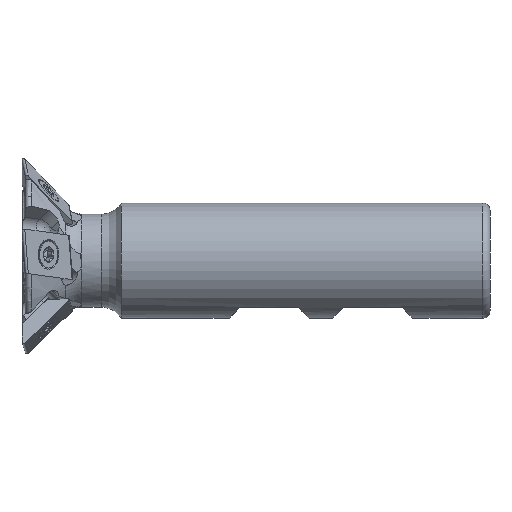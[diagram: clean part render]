
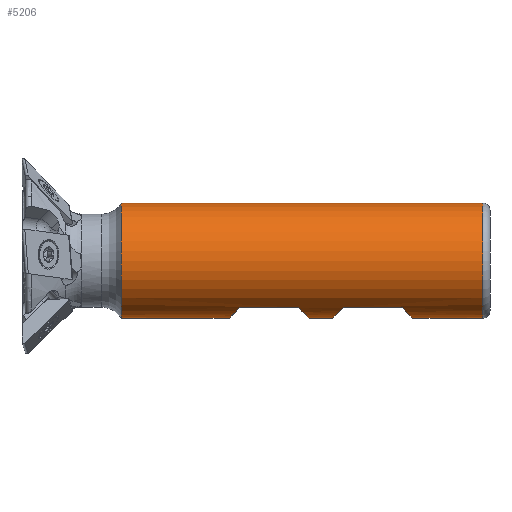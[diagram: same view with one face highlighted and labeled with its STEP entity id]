
A CAD part, front view. The second image highlights one B-rep face of the part: STEP entity #5206.
In plain terms, the highlighted cylindrical face has radius 12.5 mm (diameter 25 mm), a partial arc.
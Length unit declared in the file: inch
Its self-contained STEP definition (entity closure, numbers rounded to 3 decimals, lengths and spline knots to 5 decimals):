
#195 = EDGE_CURVE ( 'NONE', #3290, #3758, #3430, .T. ) ;
#206 = CARTESIAN_POINT ( 'NONE',  ( -3.15, 0., 0. ) ) ;
#298 =( BOUNDED_CURVE ( )  B_SPLINE_CURVE ( 3, ( #5281, #1592, #6509, #6428 ),
 .UNSPECIFIED., .F., .F. ) 
 B_SPLINE_CURVE_WITH_KNOTS ( ( 4, 4 ),
 ( 2.52719, 3.14159 ),
 .UNSPECIFIED. ) 
 CURVE ( )  GEOMETRIC_REPRESENTATION_ITEM ( )  RATIONAL_B_SPLINE_CURVE ( ( 1., 0.969, 0.969, 1. ) ) 
 REPRESENTATION_ITEM ( '' )  );
#342 = VERTEX_POINT ( 'NONE', #2066 ) ;
#379 = CARTESIAN_POINT ( 'NONE',  ( -0.0625, 0., -0.49213 ) ) ;
#451 = LINE ( 'NONE', #2486, #6341 ) ;
#467 = CARTESIAN_POINT ( 'NONE',  ( -0.66, -0.10241, -0.49213 ) ) ;
#495 = ORIENTED_EDGE ( 'NONE', *, *, #5054, .T. ) ;
#556 = CYLINDRICAL_SURFACE ( 'NONE', #7187, 0.49213 ) ;
#650 = ORIENTED_EDGE ( 'NONE', *, *, #6853, .T. ) ;
#661 = EDGE_CURVE ( 'NONE', #3811, #3963, #6129, .T. ) ;
#680 = EDGE_CURVE ( 'NONE', #2495, #1774, #2670, .T. ) ;
#741 = EDGE_CURVE ( 'NONE', #6702, #342, #6648, .T. ) ;
#764 = ORIENTED_EDGE ( 'NONE', *, *, #7484, .T. ) ;
#1046 = VERTEX_POINT ( 'NONE', #3420 ) ;
#1210 = VERTEX_POINT ( 'NONE', #6467 ) ;
#1379 = EDGE_CURVE ( 'NONE', #3915, #1774, #7335, .T. ) ;
#1532 = CARTESIAN_POINT ( 'NONE',  ( -8.15333, 0., -0.49213 ) ) ;
#1563 = DIRECTION ( 'NONE',  ( -1., 0., 0. ) ) ;
#1565 = CARTESIAN_POINT ( 'NONE',  ( -2.23, -0.10241, -0.49213 ) ) ;
#1592 = CARTESIAN_POINT ( 'NONE',  ( -1.57597, -0.20002, -0.46116 ) ) ;
#1593 = ORIENTED_EDGE ( 'NONE', *, *, #7752, .T. ) ;
#1723 = CARTESIAN_POINT ( 'NONE',  ( -1.255, -0.28369, -0.40213 ) ) ;
#1774 = VERTEX_POINT ( 'NONE', #2376 ) ;
#1903 = CARTESIAN_POINT ( 'NONE',  ( -8.15333, -0.28369, -0.40213 ) ) ;
#1963 = CARTESIAN_POINT ( 'NONE',  ( -8.15333, 0., 0.49213 ) ) ;
#2034 = EDGE_CURVE ( 'NONE', #4218, #2495, #451, .T. ) ;
#2066 = CARTESIAN_POINT ( 'NONE',  ( -1.545, 0., -0.49213 ) ) ;
#2214 = CARTESIAN_POINT ( 'NONE',  ( -0.75, -0.28369, -0.40213 ) ) ;
#2222 = DIRECTION ( 'NONE',  ( 0., 0., 1. ) ) ;
#2376 = CARTESIAN_POINT ( 'NONE',  ( -0.66, 0., -0.49213 ) ) ;
#2451 = CARTESIAN_POINT ( 'NONE',  ( -2.23, 0., -0.49213 ) ) ;
#2486 = CARTESIAN_POINT ( 'NONE',  ( -8.15333, -0.28369, -0.40213 ) ) ;
#2495 = VERTEX_POINT ( 'NONE', #6724 ) ;
#2634 = DIRECTION ( 'NONE',  ( -1., 0., 0. ) ) ;
#2670 =( BOUNDED_CURVE ( )  B_SPLINE_CURVE ( 3, ( #2214, #3476, #467, #7757 ),
 .UNSPECIFIED., .F., .T. ) 
 B_SPLINE_CURVE_WITH_KNOTS ( ( 4, 4 ),
 ( 2.52719, 3.14159 ),
 .UNSPECIFIED. ) 
 CURVE ( )  GEOMETRIC_REPRESENTATION_ITEM ( )  RATIONAL_B_SPLINE_CURVE ( ( 1., 0.969, 0.969, 1. ) ) 
 REPRESENTATION_ITEM ( '' )  );
#2721 = CIRCLE ( 'NONE', #4650, 0.49213 ) ;
#2955 = CARTESIAN_POINT ( 'NONE',  ( -3.15, 0., 0.49213 ) ) ;
#2999 = ORIENTED_EDGE ( 'NONE', *, *, #1379, .F. ) ;
#3128 = CARTESIAN_POINT ( 'NONE',  ( -1.31403, -0.20002, -0.46116 ) ) ;
#3196 = ORIENTED_EDGE ( 'NONE', *, *, #3334, .T. ) ;
#3204 = ORIENTED_EDGE ( 'NONE', *, *, #2034, .T. ) ;
#3290 = VERTEX_POINT ( 'NONE', #6791 ) ;
#3319 = LINE ( 'NONE', #1963, #7133 ) ;
#3334 = EDGE_CURVE ( 'NONE', #6702, #4218, #3900, .T. ) ;
#3420 = CARTESIAN_POINT ( 'NONE',  ( -1.635, -0.28369, -0.40213 ) ) ;
#3430 = CIRCLE ( 'NONE', #5439, 0.49213 ) ;
#3446 = DIRECTION ( 'NONE',  ( -1., 0., 0. ) ) ;
#3476 = CARTESIAN_POINT ( 'NONE',  ( -0.69097, -0.20002, -0.46116 ) ) ;
#3514 = VECTOR ( 'NONE', #4758, 39.37008 ) ;
#3707 = DIRECTION ( 'NONE',  ( 1., 0., 0. ) ) ;
#3708 = VECTOR ( 'NONE', #1563, 39.37008 ) ;
#3725 = CARTESIAN_POINT ( 'NONE',  ( -8.15333, 0., -0.49213 ) ) ;
#3755 = LINE ( 'NONE', #1903, #7778 ) ;
#3758 = VERTEX_POINT ( 'NONE', #2955 ) ;
#3786 = DIRECTION ( 'NONE',  ( -1., 0., 0. ) ) ;
#3811 = VERTEX_POINT ( 'NONE', #2451 ) ;
#3900 =( BOUNDED_CURVE ( )  B_SPLINE_CURVE ( 3, ( #4992, #7427, #3128, #5640 ),
 .UNSPECIFIED., .F., .F. ) 
 B_SPLINE_CURVE_WITH_KNOTS ( ( 4, 4 ),
 ( 0., 0.6144 ),
 .UNSPECIFIED. ) 
 CURVE ( )  GEOMETRIC_REPRESENTATION_ITEM ( )  RATIONAL_B_SPLINE_CURVE ( ( 1., 0.969, 0.969, 1. ) ) 
 REPRESENTATION_ITEM ( '' )  );
#3915 = VERTEX_POINT ( 'NONE', #379 ) ;
#3963 = VERTEX_POINT ( 'NONE', #7098 ) ;
#4023 = CARTESIAN_POINT ( 'NONE',  ( -0.0625, 0., 0. ) ) ;
#4081 = DIRECTION ( 'NONE',  ( -1., 0., 0. ) ) ;
#4105 = CARTESIAN_POINT ( 'NONE',  ( -2.14, -0.28369, -0.40213 ) ) ;
#4218 = VERTEX_POINT ( 'NONE', #1723 ) ;
#4272 = VECTOR ( 'NONE', #6190, 39.37008 ) ;
#4404 = EDGE_CURVE ( 'NONE', #3811, #3290, #5510, .T. ) ;
#4471 = CARTESIAN_POINT ( 'NONE',  ( -1.345, 0., -0.49213 ) ) ;
#4650 = AXIS2_PLACEMENT_3D ( 'NONE', #4023, #4081, #2222 ) ;
#4758 = DIRECTION ( 'NONE',  ( -1., 0., 0. ) ) ;
#4973 = ORIENTED_EDGE ( 'NONE', *, *, #661, .T. ) ;
#4992 = CARTESIAN_POINT ( 'NONE',  ( -1.345, 0., -0.49213 ) ) ;
#5054 = EDGE_CURVE ( 'NONE', #1210, #3758, #3319, .T. ) ;
#5206 = ADVANCED_FACE ( 'NONE', ( #7623 ), #556, .T. ) ;
#5275 = CARTESIAN_POINT ( 'NONE',  ( -2.23, 0., -0.49213 ) ) ;
#5281 = CARTESIAN_POINT ( 'NONE',  ( -1.635, -0.28369, -0.40213 ) ) ;
#5439 = AXIS2_PLACEMENT_3D ( 'NONE', #206, #3786, #7482 ) ;
#5510 = LINE ( 'NONE', #1532, #3708 ) ;
#5610 = ORIENTED_EDGE ( 'NONE', *, *, #680, .T. ) ;
#5640 = CARTESIAN_POINT ( 'NONE',  ( -1.255, -0.28369, -0.40213 ) ) ;
#5961 = ORIENTED_EDGE ( 'NONE', *, *, #4404, .F. ) ;
#6129 =( BOUNDED_CURVE ( )  B_SPLINE_CURVE ( 3, ( #5275, #1565, #7096, #4105 ),
 .UNSPECIFIED., .F., .T. ) 
 B_SPLINE_CURVE_WITH_KNOTS ( ( 4, 4 ),
 ( 0., 0.6144 ),
 .UNSPECIFIED. ) 
 CURVE ( )  GEOMETRIC_REPRESENTATION_ITEM ( )  RATIONAL_B_SPLINE_CURVE ( ( 1., 0.969, 0.969, 1. ) ) 
 REPRESENTATION_ITEM ( '' )  );
#6190 = DIRECTION ( 'NONE',  ( -1., 0., 0. ) ) ;
#6341 = VECTOR ( 'NONE', #6736, 39.37008 ) ;
#6428 = CARTESIAN_POINT ( 'NONE',  ( -1.545, 0., -0.49213 ) ) ;
#6467 = CARTESIAN_POINT ( 'NONE',  ( -0.0625, 0., 0.49213 ) ) ;
#6509 = CARTESIAN_POINT ( 'NONE',  ( -1.545, -0.10241, -0.49213 ) ) ;
#6648 = LINE ( 'NONE', #7859, #3514 ) ;
#6702 = VERTEX_POINT ( 'NONE', #4471 ) ;
#6724 = CARTESIAN_POINT ( 'NONE',  ( -0.75, -0.28369, -0.40213 ) ) ;
#6736 = DIRECTION ( 'NONE',  ( 1., 0., 0. ) ) ;
#6791 = CARTESIAN_POINT ( 'NONE',  ( -3.15, 0., -0.49213 ) ) ;
#6853 = EDGE_CURVE ( 'NONE', #3915, #1210, #2721, .T. ) ;
#6985 = ORIENTED_EDGE ( 'NONE', *, *, #741, .F. ) ;
#6992 = ORIENTED_EDGE ( 'NONE', *, *, #195, .F. ) ;
#7090 = CARTESIAN_POINT ( 'NONE',  ( -8.15333, 0., 0. ) ) ;
#7096 = CARTESIAN_POINT ( 'NONE',  ( -2.19903, -0.20002, -0.46116 ) ) ;
#7098 = CARTESIAN_POINT ( 'NONE',  ( -2.14, -0.28369, -0.40213 ) ) ;
#7133 = VECTOR ( 'NONE', #2634, 39.37008 ) ;
#7187 = AXIS2_PLACEMENT_3D ( 'NONE', #7090, #3446, #7697 ) ;
#7335 = LINE ( 'NONE', #3725, #4272 ) ;
#7427 = CARTESIAN_POINT ( 'NONE',  ( -1.345, -0.10241, -0.49213 ) ) ;
#7482 = DIRECTION ( 'NONE',  ( 0., 0., 1. ) ) ;
#7484 = EDGE_CURVE ( 'NONE', #1046, #342, #298, .T. ) ;
#7623 = FACE_OUTER_BOUND ( 'NONE', #7815, .T. ) ;
#7697 = DIRECTION ( 'NONE',  ( 0., 0., 1. ) ) ;
#7752 = EDGE_CURVE ( 'NONE', #3963, #1046, #3755, .T. ) ;
#7757 = CARTESIAN_POINT ( 'NONE',  ( -0.66, 0., -0.49213 ) ) ;
#7778 = VECTOR ( 'NONE', #3707, 39.37008 ) ;
#7815 = EDGE_LOOP ( 'NONE', ( #2999, #650, #495, #6992, #5961, #4973, #1593, #764, #6985, #3196, #3204, #5610 ) ) ;
#7859 = CARTESIAN_POINT ( 'NONE',  ( -8.15333, 0., -0.49213 ) ) ;
